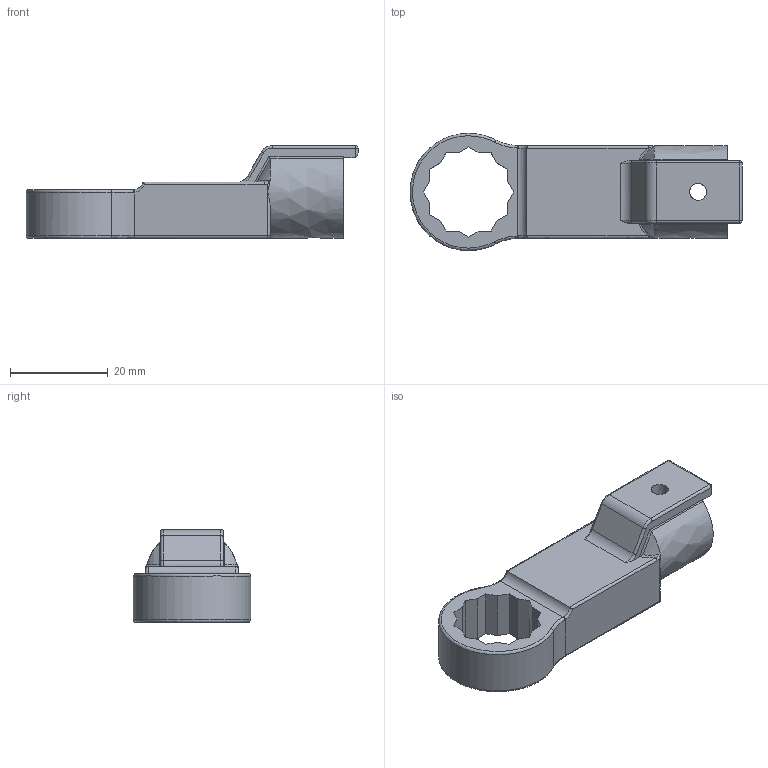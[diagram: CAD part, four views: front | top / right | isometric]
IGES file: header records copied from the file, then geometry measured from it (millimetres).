
Global section: file name: RH12DX16; native system: Autodesk Inventor 2016; preprocessor: unknown; author: Q532; date: 20151110.160350; units: millimetre
Bounding box: 68 x 24 x 19 mm (x, y, z)
Volume: 11139.8 mm3; surface area: 5265.7 mm2
Topology: 1 solids, 1 shells, 97 faces, 259 edges, 160 vertices
Faces by surface type: bspline 97
